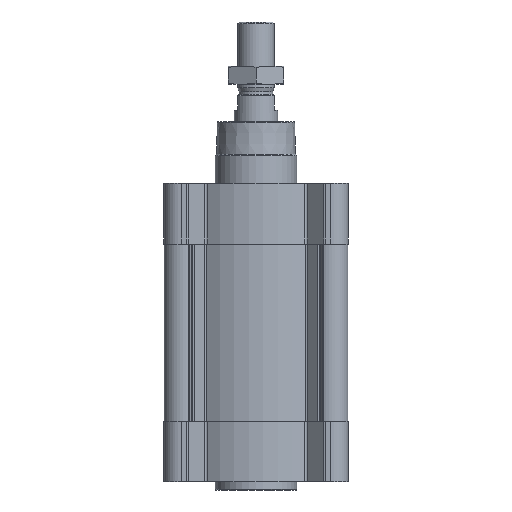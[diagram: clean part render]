
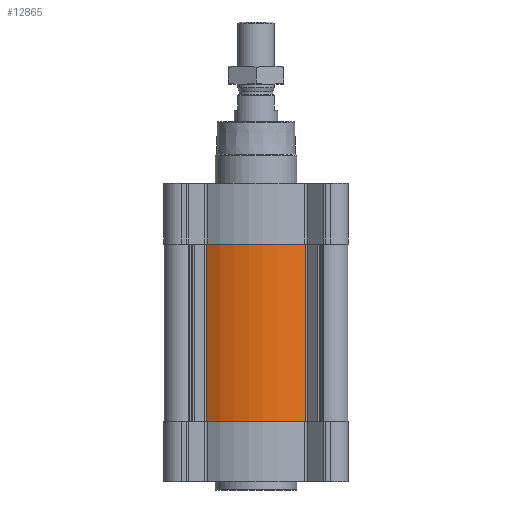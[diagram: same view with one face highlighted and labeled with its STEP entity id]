
A CAD part, front view. The second image highlights one B-rep face of the part: STEP entity #12865.
In plain terms, the highlighted cylindrical face has radius 66 mm (diameter 132 mm), a partial arc.
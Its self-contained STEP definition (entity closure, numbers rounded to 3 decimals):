
#184 = VERTEX_POINT ( 'NONE', #8979 ) ;
#1077 = EDGE_CURVE ( 'NONE', #184, #16448, #13593, .T. ) ;
#1731 = CARTESIAN_POINT ( 'NONE',  ( 36.184, -55.197, -175.3 ) ) ;
#2707 = CARTESIAN_POINT ( 'NONE',  ( -36.184, -55.197, -175.3 ) ) ;
#2902 = AXIS2_PLACEMENT_3D ( 'NONE', #16996, #17098, #3494 ) ;
#3215 = LINE ( 'NONE', #1731, #9869 ) ;
#3344 = ORIENTED_EDGE ( 'NONE', *, *, #18688, .F. ) ;
#3385 = ORIENTED_EDGE ( 'NONE', *, *, #14051, .T. ) ;
#3494 = DIRECTION ( 'NONE',  ( 1., 0., 0. ) ) ;
#3506 = VECTOR ( 'NONE', #4186, 1000. ) ;
#3563 = CARTESIAN_POINT ( 'NONE',  ( -36.184, -55.197, -44.7 ) ) ;
#4186 = DIRECTION ( 'NONE',  ( 0., 0., 1. ) ) ;
#5100 = VERTEX_POINT ( 'NONE', #3563 ) ;
#5585 = FACE_OUTER_BOUND ( 'NONE', #11017, .T. ) ;
#6733 = CARTESIAN_POINT ( 'NONE',  ( 36.184, -55.197, -175.3 ) ) ;
#7031 = AXIS2_PLACEMENT_3D ( 'NONE', #10225, #15951, #10318 ) ;
#7338 = AXIS2_PLACEMENT_3D ( 'NONE', #17596, #13256, #14357 ) ;
#7610 = CARTESIAN_POINT ( 'NONE',  ( 36.184, -55.197, -44.7 ) ) ;
#7648 = ORIENTED_EDGE ( 'NONE', *, *, #1077, .T. ) ;
#8201 = EDGE_CURVE ( 'NONE', #5100, #16535, #12064, .T. ) ;
#8979 = CARTESIAN_POINT ( 'NONE',  ( -36.184, -55.197, -175.3 ) ) ;
#9869 = VECTOR ( 'NONE', #10789, 1000. ) ;
#10225 = CARTESIAN_POINT ( 'NONE',  ( 0., 0., -44.7 ) ) ;
#10318 = DIRECTION ( 'NONE',  ( 1., 0., 0. ) ) ;
#10789 = DIRECTION ( 'NONE',  ( 0., 0., 1. ) ) ;
#11017 = EDGE_LOOP ( 'NONE', ( #17406, #3344, #7648, #3385 ) ) ;
#11580 = CYLINDRICAL_SURFACE ( 'NONE', #7338, 66. ) ;
#11654 = LINE ( 'NONE', #2707, #3506 ) ;
#12064 = CIRCLE ( 'NONE', #7031, 66. ) ;
#12865 = ADVANCED_FACE ( 'NONE', ( #5585 ), #11580, .T. ) ;
#13256 = DIRECTION ( 'NONE',  ( 0., 0., 1. ) ) ;
#13593 = CIRCLE ( 'NONE', #2902, 66. ) ;
#14051 = EDGE_CURVE ( 'NONE', #16448, #16535, #3215, .T. ) ;
#14357 = DIRECTION ( 'NONE',  ( 1., 0., 0. ) ) ;
#15951 = DIRECTION ( 'NONE',  ( 0., 0., 1. ) ) ;
#16448 = VERTEX_POINT ( 'NONE', #6733 ) ;
#16535 = VERTEX_POINT ( 'NONE', #7610 ) ;
#16996 = CARTESIAN_POINT ( 'NONE',  ( 0., 0., -175.3 ) ) ;
#17098 = DIRECTION ( 'NONE',  ( 0., 0., 1. ) ) ;
#17406 = ORIENTED_EDGE ( 'NONE', *, *, #8201, .F. ) ;
#17596 = CARTESIAN_POINT ( 'NONE',  ( 0., 0., -175.3 ) ) ;
#18688 = EDGE_CURVE ( 'NONE', #184, #5100, #11654, .T. ) ;
